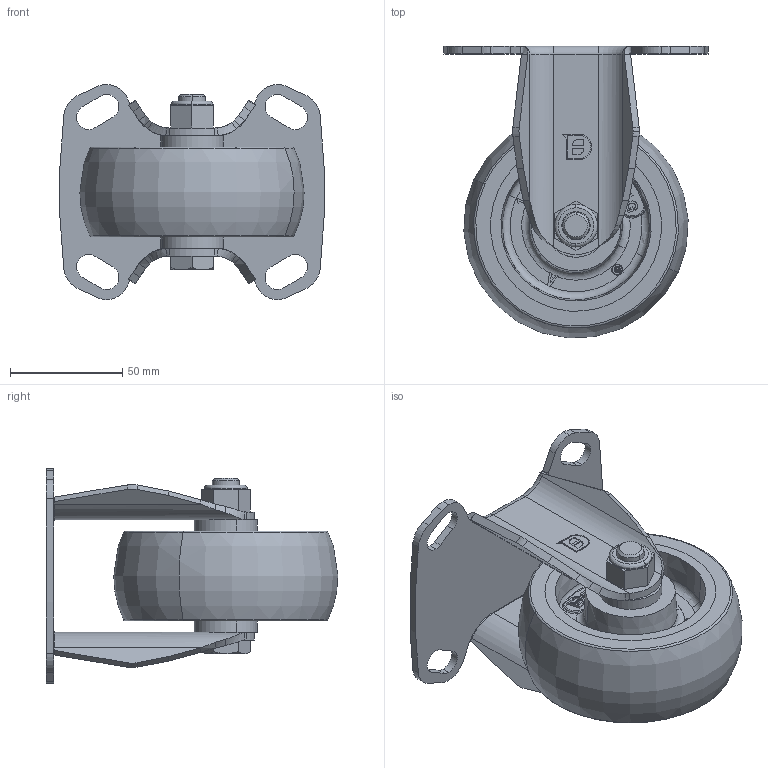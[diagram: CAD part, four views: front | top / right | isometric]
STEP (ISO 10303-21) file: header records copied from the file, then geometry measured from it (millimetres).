
FILE_DESCRIPTION (( 'STEP AP214' ), '1' );
FILE_NAME ('11510400601913.STEP', '2025-10-28T05:32:41', ( '' ), ( '' ), 'SwSTEP 2.0', 'SolidWorks 2024', '' );
FILE_SCHEMA (( 'AUTOMOTIVE_DESIGN' ));
Length unit declared in the file: millimetre
Products named in the file (8): POM____F(__15x__12.3x15____28x8.75)___1; 4''''''''''''''''51____D__________________________.STEP_4''''''''51____D__________________________.STEP; 11510400601913; 11510400531063(2); 11510400602073(2); 4''''''''''''AQPU__________A_O_1; __4''''''''''''''''51____D__________________________.STEP_4''''''''51____D__________________________.STEP; _4''''''''''''''''51____D__________________________.STEP_4''''''''51____D__________________________.STEP
Assembly tree (8 placements, depth 5):
  11510400601913
    11510400531063(2)
      4''''''''''''''''51____D__________________________.STEP_4''''''''51____D__________________________.STEP
        _4''''''''''''''''51____D__________________________.STEP_4''''''''51____D__________________________.STEP
          __4''''''''''''''''51____D__________________________.STEP_4''''''''51____D__________________________.STEP
    11510400602073(2)
      4''''''''''''AQPU__________A_O_1
      POM____F(__15x__12.3x15____28x8.75)___1  x2
Bounding box: 117.56 x 129.89 x 95.76 mm (x, y, z)
Volume: 298266.8 mm3; surface area: 82462.2 mm2
Topology: 6 solids, 6 shells, 496 faces, 1248 edges, 807 vertices
Faces by surface type: plane 257, cylinder 114, bspline 79, torus 29, cone 17
Entity records: 19409 total; most frequent: CARTESIAN_POINT 7673, ORIENTED_EDGE 2472, DIRECTION 2186, EDGE_CURVE 1236, VERTEX_POINT 799, AXIS2_PLACEMENT_3D 730, LINE 726, VECTOR 726
